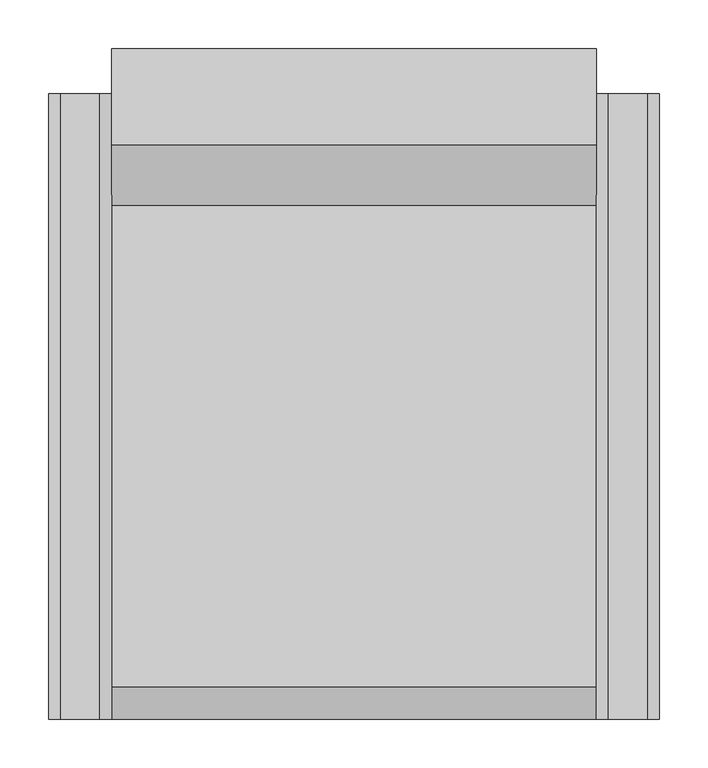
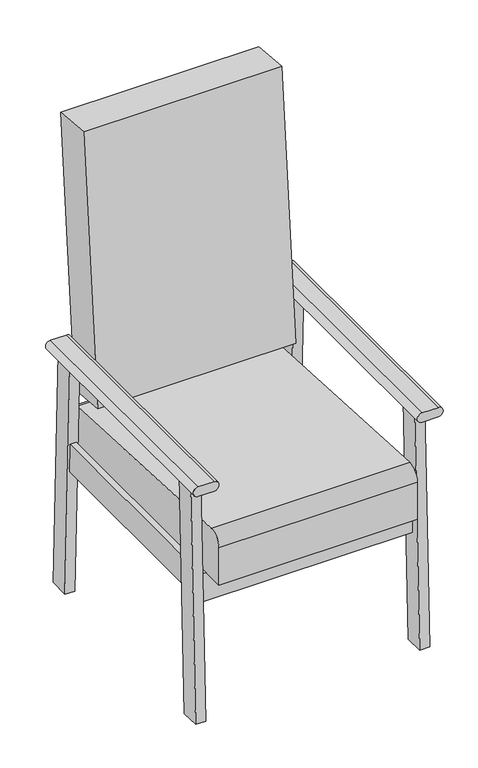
"""IFC4 building model written with IfcOpenShell, lengths in millimetres: furniture geometry, BIMHealth-Chair_High_Back-LOD2A-v1 : BIMHealth-Chair_High_Back-LOD2A-v1."""

import ifcopenshell
import ifcopenshell.guid

model = None  # the IFC model being written
_history = None  # IfcOwnerHistory: only IFC2X3 demands one
_inside = {}  # id of a spatial element -> (the spatial element, [elements in it])
_under = {}  # id of a project, library or spatial element -> (it, [spatial elements below it])
_declared = {}  # id of a project -> (the project, [libraries it declares])
_typed = {}  # id of a type object -> (the type object, [elements of that type])
_made_of = {}  # id of a material, layer set ... -> (it, [elements and type objects made of it])


def new_model(schema):
    """Start an empty IFC model of exactly this schema.

    Asked for "IFC4X3", IfcOpenShell would pick the latest addendum, in which some entities
    have other attributes; the version numbers below select the first issue.
    IFC2X3 requires an IfcOwnerHistory on every rooted entity: one is made here for all.
    """
    global model, _history
    if schema == "IFC4X3":
        model = ifcopenshell.file(schema_version=(4, 3, 0, 0))
    else:
        model = ifcopenshell.file(schema=schema)
    _inside.clear()
    _under.clear()
    _declared.clear()
    _typed.clear()
    _made_of.clear()
    _history = None
    if model.schema == "IFC2X3":
        org = make("IfcOrganization", Name="unknown")
        user = make(
            "IfcPersonAndOrganization",
            ThePerson=make("IfcPerson", FamilyName="unknown"),
            TheOrganization=org,
        )
        app = make(
            "IfcApplication",
            ApplicationDeveloper=org,
            Version="unknown",
            ApplicationFullName="unknown",
            ApplicationIdentifier="unknown",
        )
        _history = make(
            "IfcOwnerHistory",
            OwningUser=user,
            OwningApplication=app,
            ChangeAction="ADDED",
            CreationDate=0,
        )
    return model


def make(cls, **values):
    """One entity of the class cls with the attributes given. An attribute that is None is left unset."""
    return model.create_entity(
        cls, **{name: value for name, value in values.items() if value is not None}
    )


def rooted(cls, **values):
    """An entity with a GlobalId (a new one), such as an element, a storey or a relation."""
    return make(cls, GlobalId=ifcopenshell.guid.new(), OwnerHistory=_history, **values)


def si_unit(unit_type, name, prefix=None):
    """IfcSIUnit, for example si_unit("LENGTHUNIT", "METRE", prefix="MILLI")."""
    return make("IfcSIUnit", UnitType=unit_type, Prefix=prefix, Name=name)


def assignment(units):
    """IfcUnitAssignment: the units of a project."""
    return None if units is None else make("IfcUnitAssignment", Units=units)


def point(xyz):
    """IfcCartesianPoint."""
    return None if xyz is None else make("IfcCartesianPoint", Coordinates=xyz)


def direction(xyz):
    """IfcDirection."""
    return None if xyz is None else make("IfcDirection", DirectionRatios=xyz)


def frame(location, z_axis=None, x_axis=None):
    """IfcAxis2Placement3D, a coordinate frame: its origin and axes. An axis left out is left unset."""
    return make(
        "IfcAxis2Placement3D",
        Location=point(location),
        Axis=direction(z_axis),
        RefDirection=direction(x_axis),
    )


def frame_2d(location, x_axis=None):
    """IfcAxis2Placement2D, a coordinate frame in the plane: its origin and x axis."""
    return make(
        "IfcAxis2Placement2D", Location=point(location), RefDirection=direction(x_axis)
    )


def origin():
    """The frame at (0, 0, 0) with its axes left unset."""
    return frame((0.0, 0.0, 0.0))


def place(relative_to, where):
    """IfcLocalPlacement: puts the frame where relative to a parent placement (None: the world)."""
    return make(
        "IfcLocalPlacement", PlacementRelTo=relative_to, RelativePlacement=where
    )


def context(
    kind, dimensions, precision=None, world=None, true_north=None, identifier=None
):
    """IfcGeometricRepresentationContext, for example the 3D "Model" context."""
    return make(
        "IfcGeometricRepresentationContext",
        ContextIdentifier=identifier,
        ContextType=kind,
        CoordinateSpaceDimension=dimensions,
        Precision=precision,
        WorldCoordinateSystem=world,
        TrueNorth=true_north,
    )


def project(units=None, contexts=None):
    """IfcProject with its units and contexts."""
    return rooted(
        "IfcProject",
        Name="project",
        RepresentationContexts=contexts,
        UnitsInContext=assignment(units),
    )


def spatial(cls, under=None, at=None, **own):
    """A site, building, storey or space (cls), placed at a placement, below another one or the project."""
    s = rooted(cls, ObjectPlacement=at, **own)
    if under is not None:
        _under.setdefault(under.id(), (under, []))[1].append(s)
    return s


def polyline(points):
    """IfcPolyline through the points."""
    return make("IfcPolyline", Points=[point(p) for p in points])


def circle_curve(where, radius):
    """IfcCircle in the frame where."""
    return make("IfcCircle", Position=where, Radius=radius)


def trimmed(basis, trim1, trim2, sense, master):
    """IfcTrimmedCurve: the piece of a basis curve between two trims."""
    return make(
        "IfcTrimmedCurve",
        BasisCurve=basis,
        Trim1=trim1,
        Trim2=trim2,
        SenseAgreement=sense,
        MasterRepresentation=master,
    )


def segment(curve, same_sense, transition):
    """IfcCompositeCurveSegment."""
    return make(
        "IfcCompositeCurveSegment",
        Transition=transition,
        SameSense=same_sense,
        ParentCurve=curve,
    )


def composite_curve(segments, self_intersect=None):
    """IfcCompositeCurve: segments joined end to end."""
    return make("IfcCompositeCurve", Segments=segments, SelfIntersect=self_intersect)


def outline(outer, holes=None, kind="AREA"):
    """IfcArbitraryClosedProfileDef: a profile drawn as a closed curve; with holes, ...WithVoids."""
    if holes is None:
        return make("IfcArbitraryClosedProfileDef", ProfileType=kind, OuterCurve=outer)
    return make(
        "IfcArbitraryProfileDefWithVoids",
        ProfileType=kind,
        OuterCurve=outer,
        InnerCurves=holes,
    )


def extrude(swept, where, along, depth):
    """IfcExtrudedAreaSolid: the profile swept, set in the frame where, extruded along a direction by depth."""
    return make(
        "IfcExtrudedAreaSolid",
        SweptArea=swept,
        Position=where,
        ExtrudedDirection=direction(along),
        Depth=depth,
    )


def shape(context_of_items, identifier, shape_type, items):
    """IfcShapeRepresentation: the items that make up one representation, for example the "Body"."""
    return make(
        "IfcShapeRepresentation",
        ContextOfItems=context_of_items,
        RepresentationIdentifier=identifier,
        RepresentationType=shape_type,
        Items=items,
    )


def source(mapping_origin, context_of_items, identifier, shape_type, items):
    """IfcRepresentationMap: a shape defined once, which mapped items show again and again."""
    return make(
        "IfcRepresentationMap",
        MappingOrigin=mapping_origin,
        MappedRepresentation=shape(context_of_items, identifier, shape_type, items),
    )


def transform(
    local_origin,
    x_axis=None,
    y_axis=None,
    z_axis=None,
    scale=None,
    scale2=None,
    scale3=None,
    uniform=True,
):
    """IfcCartesianTransformationOperator3D, or its non-uniform kind. x_axis, y_axis, z_axis: its Axis1, 2, 3."""
    if uniform:
        return make(
            "IfcCartesianTransformationOperator3D",
            Axis1=direction(x_axis),
            Axis2=direction(y_axis),
            LocalOrigin=point(local_origin),
            Scale=scale,
            Axis3=direction(z_axis),
        )
    return make(
        "IfcCartesianTransformationOperator3DnonUniform",
        Axis1=direction(x_axis),
        Axis2=direction(y_axis),
        LocalOrigin=point(local_origin),
        Scale=scale,
        Axis3=direction(z_axis),
        Scale2=scale2,
        Scale3=scale3,
    )


def mapped(mapping_source, mapping_target):
    """IfcMappedItem: shows the shape of a source again, moved by a transform."""
    return make(
        "IfcMappedItem", MappingSource=mapping_source, MappingTarget=mapping_target
    )


def made_of(thing, what):
    """Note that an element or type object is made of a material, layer set ...; save() writes the relation."""
    if what is not None:
        _made_of.setdefault(what.id(), (what, []))[1].append(thing)
    return thing


def element(
    cls,
    number,
    at=None,
    inside=None,
    cuts=None,
    type_object=None,
    material=None,
    context=None,
    identifier="Body",
    shape_type=None,
    held_by="IfcProductDefinitionShape",
    body=None,
    shapes=None,
    **own,
):
    """One element of the class cls, such as IfcWall. Its Tag is "e" and its number.

    at: its placement. inside: the storey or other place that contains it. cuts: it is an
    opening in that element (IfcRelVoidsElement). A single representation is given by context,
    identifier, shape_type and body (its items); several are given by shapes. held_by: the class
    of the entity that holds the representations. save() writes the other relations.
    """
    e = rooted(cls, Tag="e%d" % number, ObjectPlacement=at, **own)
    if body is not None:
        shapes = [shape(context, identifier, shape_type, body)]
    if shapes is not None:
        e.Representation = make(held_by, Representations=shapes)
    if inside is not None:
        _inside.setdefault(inside.id(), (inside, []))[1].append(e)
    if cuts is not None:
        rooted(
            "IfcRelVoidsElement", RelatingBuildingElement=cuts, RelatedOpeningElement=e
        )
    if type_object is not None:
        _typed.setdefault(type_object.id(), (type_object, []))[1].append(e)
    return made_of(e, material)


def aggregate(whole, parts):
    """IfcRelAggregates: a whole, such as a stair, and the parts it consists of."""
    return rooted("IfcRelAggregates", RelatingObject=whole, RelatedObjects=parts)


def save(model, path):
    """Write the relations noted so far, then the file.

    IfcRelAggregates (storeys below a building ...), IfcRelContainedInSpatialStructure (elements
    in a storey), IfcRelDefinesByType, IfcRelAssociatesMaterial and IfcRelDeclares: one each for
    every whole, place, type object, material and project.
    """
    for whole, parts in _under.values():
        aggregate(whole, parts)
    for where, things in _inside.values():
        rooted(
            "IfcRelContainedInSpatialStructure",
            RelatedElements=things,
            RelatingStructure=where,
        )
    for kind, things in _typed.values():
        rooted("IfcRelDefinesByType", RelatedObjects=things, RelatingType=kind)
    for what, things in _made_of.values():
        rooted("IfcRelAssociatesMaterial", RelatedObjects=things, RelatingMaterial=what)
    for by, libraries in _declared.values():
        rooted("IfcRelDeclares", RelatingContext=by, RelatedDefinitions=libraries)
    model.write(path)


def furniture_5b125ba6(model_context):
    return source(origin(), model_context, "Body", "SweptSolid", [
        extrude(outline(composite_curve([segment(trimmed(circle_curve(frame_2d((637.5, -7.5)), 12.5), [point((650.0, -7.5))], [point((625.0, -7.5))], False, "CARTESIAN"), True, "CONTINUOUS"), segment(polyline([(625.0, -7.5), (625.0, 32.5)]), True, "CONTINUOUS"), segment(trimmed(circle_curve(frame_2d((637.5, 32.5)), 12.5), [point((625.0, 32.5))], [point((650.0, 32.5))], False, "CARTESIAN"), True, "CONTINUOUS"), segment(polyline([(650.0, 32.5), (650.0, -7.5)]), True, "CONTINUOUS")], self_intersect=False)), frame((0.0, -690.0, 0.0), z_axis=(0.0, 1.0, 0.0), x_axis=(0.0, 0.0, 1.0)), (0.0, 0.0, 1.0), 645.0),
        extrude(outline(composite_curve([segment(polyline([(-98.5029701, 1219.8587572), (1.3912185, 1211.11914)]), True, "CONTINUOUS"), segment(trimmed(circle_curve(frame_2d((4641.3392615, 451.69162)), 4701.6856551), [point((1.3912185, 1211.11914))], [point((-59.9907404, 509.5207891))], True, "CARTESIAN"), True, "CONTINUOUS"), segment(polyline([(-59.9907404, 509.5207891), (-159.884929, 518.2604062)]), True, "CONTINUOUS"), segment(trimmed(circle_curve(frame_2d((4641.3392615, 451.69162)), 4801.6856551), [point((-159.884929, 518.2604062))], [point((-98.5029701, 1219.8587572))], False, "CARTESIAN"), True, "CONTINUOUS")], self_intersect=False)), frame((45.0, 0.0, 0.0), z_axis=(1.0, 0.0, 0.0), x_axis=(0.0, 1.0, 0.0)), (0.0, 0.0, 1.0), 500.0),
        extrude(outline(polyline([(-601.6741923, 407.5), (-109.2302136, 407.5), (-106.6111559, 332.5), (-604.29325, 332.5), (-601.6741923, 407.5)])), frame((5.0, 0.0, 0.0), z_axis=(1.0, 0.0, 0.0), x_axis=(0.0, 1.0, 0.0)), (0.0, 0.0, 1.0), 15.0),
        extrude(outline(polyline([(0.0, 0.0), (0.0, -25.0), (-50.0, -25.0), (-50.0, 0.0), (0.0, 0.0)])), frame((565.0, -45.0304586, 1.7449748), z_axis=(0.0, -0.034899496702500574, 0.9993908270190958), x_axis=(0.0, 0.9993908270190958, 0.034899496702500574)), (0.0, 0.0, 1.0), 625.0),
        extrude(outline(polyline([(25.0, 0.0), (25.0, -50.0), (0.0, -50.0), (0.0, 0.0), (25.0, 0.0)])), frame((590.0, -665.9343136, 0.0163085), z_axis=(0.0, 0.034899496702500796, 0.9993908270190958), x_axis=(-1.0, 0.0, 0.0)), (0.0, 0.0, 1.0), 625.0),
        extrude(outline(composite_curve([segment(polyline([(650.0, 597.5), (650.0, 557.5)]), True, "CONTINUOUS"), segment(trimmed(circle_curve(frame_2d((637.5, 557.5)), 12.5), [point((650.0, 557.5))], [point((625.0, 557.5))], False, "CARTESIAN"), True, "CONTINUOUS"), segment(polyline([(625.0, 557.5), (625.0, 597.5)]), True, "CONTINUOUS"), segment(trimmed(circle_curve(frame_2d((637.5, 597.5)), 12.5), [point((625.0, 597.5))], [point((650.0, 597.5))], False, "CARTESIAN"), True, "CONTINUOUS")], self_intersect=False)), frame((0.0, -690.0, 0.0), z_axis=(0.0, 1.0, 0.0), x_axis=(0.0, 0.0, 1.0)), (0.0, 0.0, 1.0), 645.0),
        extrude(outline(polyline([(25.0, -75.8291124), (565.0, -75.8291124), (565.0, -90.8291124), (25.0, -90.8291124), (25.0, -75.8291124)])), frame((0.0, 0.0, 295.0), z_axis=(0.0, 0.0, 1.0), x_axis=(1.0, 0.0, 0.0)), (0.0, 0.0, 1.0), 75.0),
        extrude(outline(polyline([(565.0, -634.7682396), (25.0, -634.7682396), (25.0, -619.7682396), (565.0, -619.7682396), (565.0, -634.7682396)])), frame((0.0, 0.0, 295.0), z_axis=(0.0, 0.0, 1.0), x_axis=(1.0, 0.0, 0.0)), (0.0, 0.0, 1.0), 75.0),
        extrude(outline(composite_curve([segment(polyline([(-55.0, 370.0), (-690.0, 370.0), (-690.0, 469.7725044)]), True, "CONTINUOUS"), segment(trimmed(circle_curve(frame_2d((-658.1624672, 469.7725044)), 31.8375328), [point((-690.0, 469.7725044))], [point((-656.4950517, 501.5663437))], False, "CARTESIAN"), True, "CONTINUOUS"), segment(polyline([(-656.4950517, 501.5663437), (-70.0005563, 470.8078695)]), True, "CONTINUOUS"), segment(trimmed(circle_curve(frame_2d((-70.8295939, 455.0)), 15.8295939), [point((-70.0005563, 470.8078695))], [point((-55.0, 455.0))], False, "CARTESIAN"), True, "CONTINUOUS"), segment(polyline([(-55.0, 455.0), (-55.0, 370.0)]), True, "CONTINUOUS")], self_intersect=False)), frame((45.0, 0.0, 0.0), z_axis=(1.0, 0.0, 0.0), x_axis=(0.0, 1.0, 0.0)), (0.0, 0.0, 1.0), 500.0),
        extrude(outline(polyline([(-601.6741923, 407.5), (-109.2302136, 407.5), (-106.6111559, 332.5), (-604.29325, 332.5), (-601.6741923, 407.5)])), frame((570.0, 0.0, 0.0), z_axis=(1.0, 0.0, 0.0), x_axis=(0.0, 1.0, 0.0)), (0.0, 0.0, 1.0), 15.0),
        extrude(outline(polyline([(25.0, 0.0), (25.0, -50.0), (0.0, -50.0), (0.0, 0.0), (25.0, 0.0)])), frame((0.0, -45.0304586, 1.7449748), z_axis=(0.0, -0.034899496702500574, 0.9993908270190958), x_axis=(1.0, 0.0, 0.0)), (0.0, 0.0, 1.0), 625.0),
        extrude(outline(polyline([(0.0, 0.0), (0.0, -25.0), (-50.0, -25.0), (-50.0, 0.0), (0.0, 0.0)])), frame((25.0, -665.9343136, 0.0163085), z_axis=(0.0, 0.034899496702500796, 0.9993908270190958), x_axis=(0.0, -0.9993908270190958, 0.034899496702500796)), (0.0, 0.0, 1.0), 625.0),
    ])


if __name__ == "__main__":
    model = new_model("IFC4")
    model_context = context("Model", 3, world=origin())
    ifc_project = project(units=[si_unit("LENGTHUNIT", "METRE", prefix="MILLI")], contexts=[model_context])
    site = spatial("IfcSite", under=ifc_project)
    building = spatial("IfcBuilding", under=site)
    placement = place(None, origin())
    furniture_shape = furniture_5b125ba6(model_context)
    element("IfcFurniture", 1, ObjectType="BIMHealth-Chair_High_Back-LOD2A-v1 : BIMHealth-Chair_High_Back-LOD2A-v1", at=placement, inside=building, context=model_context, shape_type="MappedRepresentation", body=[
        mapped(furniture_shape, transform((0.0, 0.0, 0.0), x_axis=(1.0, 0.0, 0.0), y_axis=(0.0, 1.0, 0.0), z_axis=(0.0, 0.0, 1.0))),
    ])
    save(model, "model.ifc")
